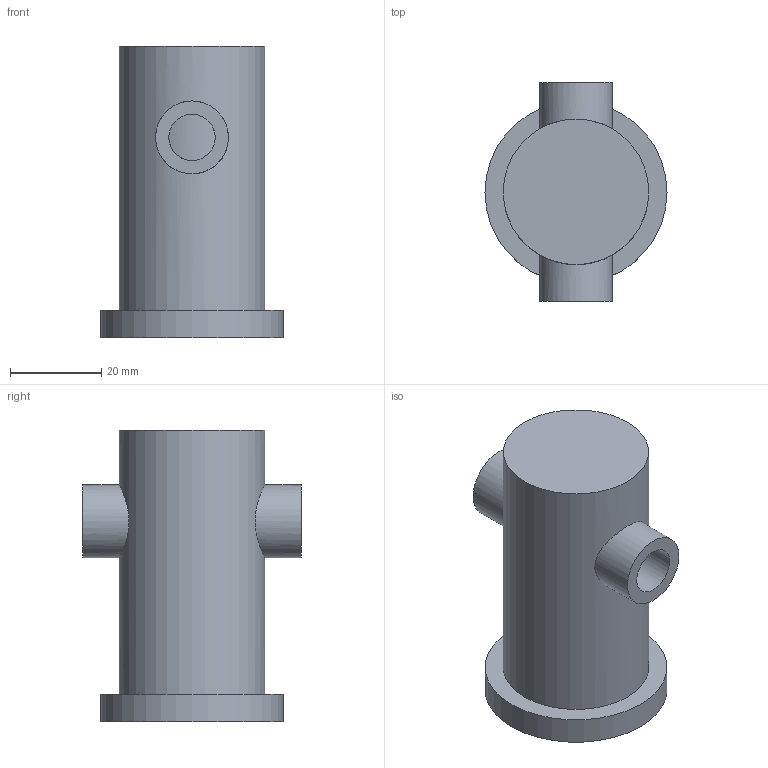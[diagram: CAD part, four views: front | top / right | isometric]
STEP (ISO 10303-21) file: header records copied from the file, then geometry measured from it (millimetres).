
FILE_DESCRIPTION(('Open CASCADE Model'),'2;1');
FILE_NAME('Open CASCADE Shape Model','2026-09-16T16:54:27',('Author'),( 'Open CASCADE'),'Open CASCADE STEP processor 7.8','Open CASCADE 7.8' ,'Unknown');
FILE_SCHEMA(('AUTOMOTIVE_DESIGN { 1 0 10303 214 1 1 1 1 }'));
Length unit declared in the file: millimetre
Products named in the file (1): Open CASCADE STEP translator 7.8 25
Bounding box: 40 x 48 x 64 mm (x, y, z)
Volume: 56270.5 mm3; surface area: 10535.7 mm2
Topology: 1 solids, 1 shells, 13 faces, 18 edges, 12 vertices
Faces by surface type: cylinder 8, plane 5
Full cylindrical faces by diameter (mm): 10.2 x2, 16 x2, 32 x1, 40 x1
Entity records: 1454 total; most frequent: CARTESIAN_POINT 1040, DIRECTION 76, ORIENTED_EDGE 36, PCURVE 36, DEFINITIONAL_REPRESENTATION 36, LINE 26, VECTOR 26, AXIS2_PLACEMENT_3D 22
